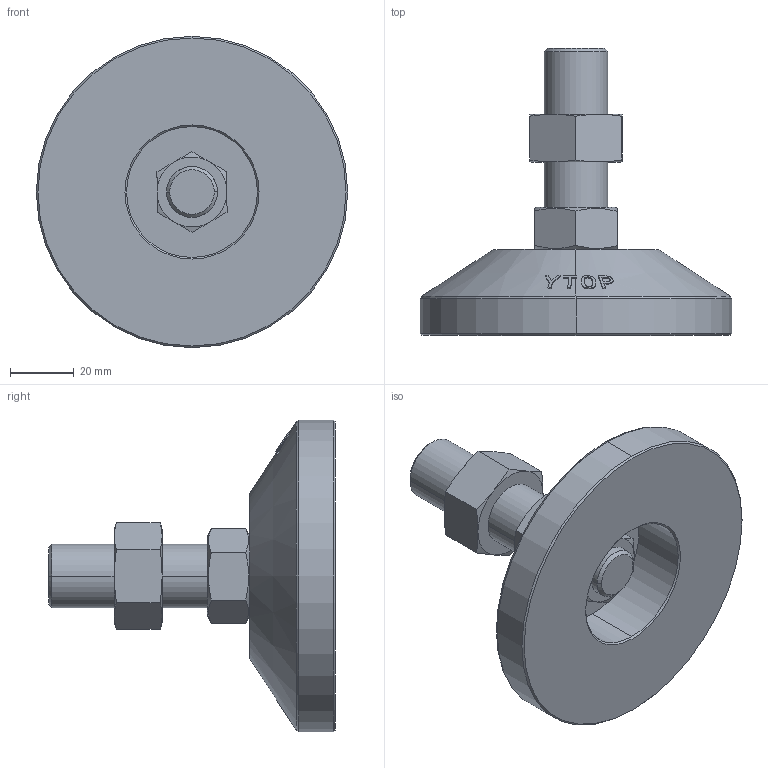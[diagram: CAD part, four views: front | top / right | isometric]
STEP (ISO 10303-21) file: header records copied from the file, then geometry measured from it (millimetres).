
FILE_DESCRIPTION (( 'STEP AP203' ), '1' );
FILE_NAME ('M-100-2050-S.STEP', '2020-09-10T07:01:05', ( '' ), ( '' ), 'SwSTEP 2.0', 'SolidWorks 2016', '' );
FILE_SCHEMA (( 'CONFIG_CONTROL_DESIGN' ));
Length unit declared in the file: millimetre
Products named in the file (5): 脚垫调节六角螺母M20; 不锈钢双头螺杆M20系列_M20X50; M-100-2050-S; 脚垫锁紧六角薄螺母M16; M-100-1褐菜 
Assembly tree (4 placements, depth 2):
  M-100-2050-S
    M-100-1褐菜 
    不锈钢双头螺杆M20系列_M20X50
    脚垫锁紧六角薄螺母M16
    脚垫调节六角螺母M20
Bounding box: 98 x 90.3 x 98 mm (x, y, z)
Volume: 169471.6 mm3; surface area: 32952.1 mm2
Topology: 4 solids, 4 shells, 143 faces, 333 edges, 206 vertices
Faces by surface type: cone 62, bspline 38, plane 29, cylinder 14
Entity records: 8896 total; most frequent: CARTESIAN_POINT 5525, ORIENTED_EDGE 666, DIRECTION 457, EDGE_CURVE 333, VERTEX_POINT 206, AXIS2_PLACEMENT_3D 196, B_SPLINE_CURVE_WITH_KNOTS 184, EDGE_LOOP 157
